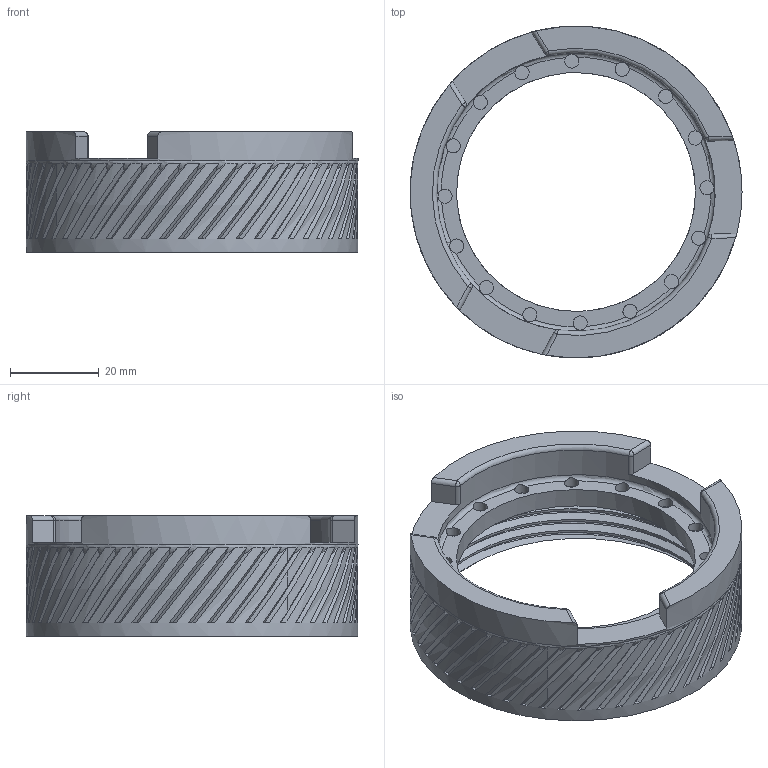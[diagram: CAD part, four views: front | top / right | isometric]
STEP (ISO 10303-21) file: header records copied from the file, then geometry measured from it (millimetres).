
FILE_DESCRIPTION(/* description */ ('STEP AP242','CAx-IF Rec.Pracs.---Representation and Presentation of Product Manufacturing Information (PMI)---4.0---2014-10-13','CAx-IF Rec.Pracs.---3D Tessellated Geometry---0.4---2014-09-14','2;1'),/* implementation_level */ '2;1');
FILE_NAME(/* name */ '64691f5fcac4670533c1ee15',/* time_stamp */ '2023-05-20T19:28:32Z',/* author */ (''),/* organization */ (''),/* preprocessor_version */ 'ST-DEVELOPER v19.4',/* originating_system */ ' ',/* authorisation */ ' ');
FILE_SCHEMA (('AP242_MANAGED_MODEL_BASED_3D_ENGINEERING_MIM_LF { 1 0 10303 442 1 1 4 }'));
Length unit declared in the file: metre
Products named in the file (1): Base 26mm Magnet Lug
Bounding box: 75 x 75 x 27.2 mm (x, y, z)
Volume: 31398.5 mm3; surface area: 17292.7 mm2
Topology: 1 solids, 1 shells, 294 faces, 856 edges, 561 vertices
Faces by surface type: bspline 152, plane 91, cylinder 36, sphere 6, torus 5, cone 4
Full cylindrical faces by diameter (mm): 3.2 x16, 54 x1, 62.9 x1, 74.9 x1, 75 x1
Entity records: 16026 total; most frequent: CARTESIAN_POINT 10140, ORIENTED_EDGE 1590, EDGE_CURVE 795, DIRECTION 771, VERTEX_POINT 532, B_SPLINE_CURVE_WITH_KNOTS 346, AXIS2_PLACEMENT_3D 344, EDGE_LOOP 319
